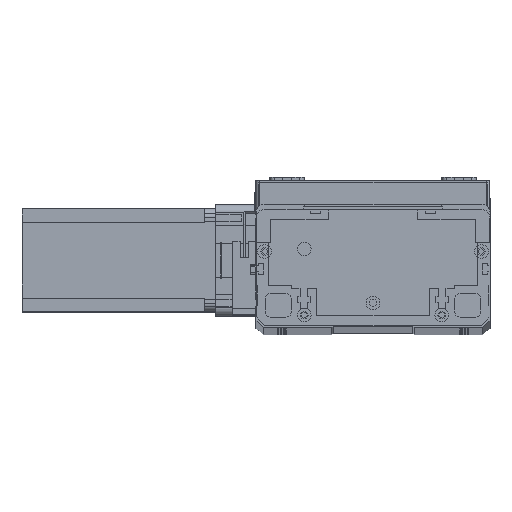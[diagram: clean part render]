
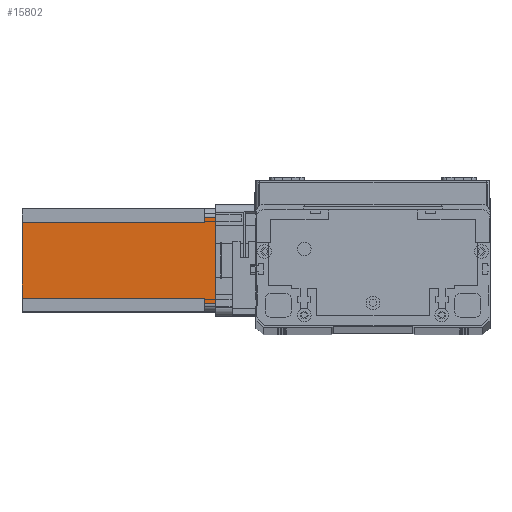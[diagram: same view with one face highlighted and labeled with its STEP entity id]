
A CAD part, top view. The second image highlights one B-rep face of the part: STEP entity #15802.
In plain terms, the highlighted planar face has unit normal (0, 0, 1) as drawn and (0, -1, 0) by its records, which use the part's own axes.
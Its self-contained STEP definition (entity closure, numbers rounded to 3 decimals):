
#379 = EDGE_LOOP ( 'NONE', ( #12199, #6758, #7681, #11582, #24156, #4500, #5544, #17640 ) ) ;
#488 = DIRECTION ( 'NONE',  ( -1., 0., 0. ) ) ;
#1244 = PLANE ( 'NONE',  #26345 ) ;
#1392 = VERTEX_POINT ( 'NONE', #14046 ) ;
#2819 = CARTESIAN_POINT ( 'NONE',  ( 52., 0., -6.5 ) ) ;
#3418 = CARTESIAN_POINT ( 'NONE',  ( 0., 0., -112.5 ) ) ;
#4370 = VERTEX_POINT ( 'NONE', #17461 ) ;
#4500 = ORIENTED_EDGE ( 'NONE', *, *, #10354, .F. ) ;
#4566 = VECTOR ( 'NONE', #8785, 1000. ) ;
#4776 = EDGE_CURVE ( 'NONE', #12006, #22584, #22591, .T. ) ;
#4917 = VECTOR ( 'NONE', #17824, 1000. ) ;
#5040 = CARTESIAN_POINT ( 'NONE',  ( 55., 0., 0. ) ) ;
#5264 = VERTEX_POINT ( 'NONE', #11283 ) ;
#5544 = ORIENTED_EDGE ( 'NONE', *, *, #11274, .T. ) ;
#5550 = DIRECTION ( 'NONE',  ( 0., 0., -1. ) ) ;
#6758 = ORIENTED_EDGE ( 'NONE', *, *, #9621, .T. ) ;
#6839 = VERTEX_POINT ( 'NONE', #19381 ) ;
#7681 = ORIENTED_EDGE ( 'NONE', *, *, #4776, .F. ) ;
#8307 = LINE ( 'NONE', #11379, #18981 ) ;
#8785 = DIRECTION ( 'NONE',  ( 0., 0., -1. ) ) ;
#9255 = CARTESIAN_POINT ( 'NONE',  ( 52., 0., -6.5 ) ) ;
#9303 = LINE ( 'NONE', #12313, #19899 ) ;
#9589 = EDGE_CURVE ( 'NONE', #21943, #1392, #16377, .T. ) ;
#9621 = EDGE_CURVE ( 'NONE', #1392, #22584, #21890, .T. ) ;
#9856 = EDGE_CURVE ( 'NONE', #12006, #9896, #26262, .T. ) ;
#9896 = VERTEX_POINT ( 'NONE', #19554 ) ;
#9943 = EDGE_CURVE ( 'NONE', #5264, #9896, #8307, .T. ) ;
#10354 = EDGE_CURVE ( 'NONE', #6839, #5264, #20616, .T. ) ;
#11274 = EDGE_CURVE ( 'NONE', #6839, #4370, #9303, .T. ) ;
#11283 = CARTESIAN_POINT ( 'NONE',  ( 8., 0., -6.5 ) ) ;
#11379 = CARTESIAN_POINT ( 'NONE',  ( 8., 0., -6.5 ) ) ;
#11438 = EDGE_CURVE ( 'NONE', #21943, #4370, #16643, .T. ) ;
#11582 = ORIENTED_EDGE ( 'NONE', *, *, #9856, .T. ) ;
#12006 = VERTEX_POINT ( 'NONE', #23013 ) ;
#12199 = ORIENTED_EDGE ( 'NONE', *, *, #9589, .T. ) ;
#12313 = CARTESIAN_POINT ( 'NONE',  ( 0., 0., -112.5 ) ) ;
#13144 = CARTESIAN_POINT ( 'NONE',  ( 5., 0., -112.5 ) ) ;
#13310 = FACE_OUTER_BOUND ( 'NONE', #379, .T. ) ;
#14046 = CARTESIAN_POINT ( 'NONE',  ( 55., 0., -6.5 ) ) ;
#14427 = DIRECTION ( 'NONE',  ( 1., 0., 0. ) ) ;
#15298 = DIRECTION ( 'NONE',  ( 0., 0., 1. ) ) ;
#15802 = ADVANCED_FACE ( 'NONE', ( #13310 ), #1244, .T. ) ;
#15965 = VECTOR ( 'NONE', #21250, 1000. ) ;
#16377 = LINE ( 'NONE', #2819, #4917 ) ;
#16437 = VECTOR ( 'NONE', #23451, 1000. ) ;
#16643 = LINE ( 'NONE', #25282, #15965 ) ;
#17461 = CARTESIAN_POINT ( 'NONE',  ( 52., 0., -112.5 ) ) ;
#17640 = ORIENTED_EDGE ( 'NONE', *, *, #11438, .F. ) ;
#17824 = DIRECTION ( 'NONE',  ( 1., 0., 0. ) ) ;
#18384 = DIRECTION ( 'NONE',  ( 0., -1., 0. ) ) ;
#18981 = VECTOR ( 'NONE', #488, 1000. ) ;
#19381 = CARTESIAN_POINT ( 'NONE',  ( 8., 0., -112.5 ) ) ;
#19554 = CARTESIAN_POINT ( 'NONE',  ( 5., 0., -6.5 ) ) ;
#19899 = VECTOR ( 'NONE', #14427, 1000. ) ;
#20616 = LINE ( 'NONE', #25542, #25328 ) ;
#21249 = VECTOR ( 'NONE', #21991, 1000. ) ;
#21250 = DIRECTION ( 'NONE',  ( 0., 0., -1. ) ) ;
#21890 = LINE ( 'NONE', #23996, #21249 ) ;
#21943 = VERTEX_POINT ( 'NONE', #9255 ) ;
#21991 = DIRECTION ( 'NONE',  ( 0., 0., 1. ) ) ;
#22584 = VERTEX_POINT ( 'NONE', #5040 ) ;
#22591 = LINE ( 'NONE', #23507, #16437 ) ;
#23013 = CARTESIAN_POINT ( 'NONE',  ( 5., 0., 0. ) ) ;
#23451 = DIRECTION ( 'NONE',  ( 1., 0., 0. ) ) ;
#23507 = CARTESIAN_POINT ( 'NONE',  ( 0., 0., 0. ) ) ;
#23996 = CARTESIAN_POINT ( 'NONE',  ( 55., 0., -112.5 ) ) ;
#24156 = ORIENTED_EDGE ( 'NONE', *, *, #9943, .F. ) ;
#25282 = CARTESIAN_POINT ( 'NONE',  ( 52., 0., -112.5 ) ) ;
#25328 = VECTOR ( 'NONE', #15298, 1000. ) ;
#25542 = CARTESIAN_POINT ( 'NONE',  ( 8., 0., -112.5 ) ) ;
#26262 = LINE ( 'NONE', #13144, #4566 ) ;
#26345 = AXIS2_PLACEMENT_3D ( 'NONE', #3418, #18384, #5550 ) ;
